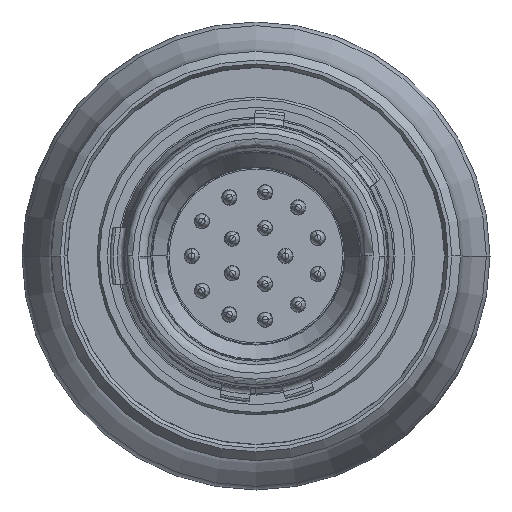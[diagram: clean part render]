
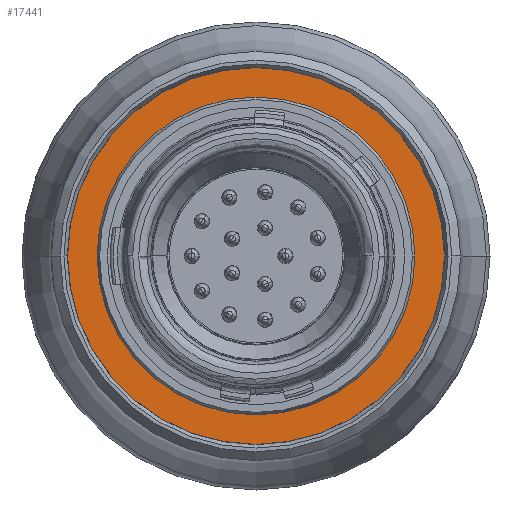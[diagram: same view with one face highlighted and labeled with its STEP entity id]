
A CAD part, left-side view. The second image highlights one B-rep face of the part: STEP entity #17441.
In plain terms, the highlighted planar face has unit normal (-1, 0, 0).
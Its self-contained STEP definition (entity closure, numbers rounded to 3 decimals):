
#1477=CARTESIAN_POINT('',(10.81,0.,0.));
#1478=DIRECTION('',(1.,0.,0.));
#1479=DIRECTION('',(0.,1.,0.));
#1480=AXIS2_PLACEMENT_3D('',#1477,#1478,#1479);
#1482=CARTESIAN_POINT('',(10.81,0.,0.));
#1483=DIRECTION('',(1.,0.,0.));
#1484=DIRECTION('',(0.,-1.,0.));
#1485=AXIS2_PLACEMENT_3D('',#1482,#1483,#1484);
#1487=CARTESIAN_POINT('',(10.81,0.,0.));
#1488=DIRECTION('',(-1.,0.,0.));
#1489=DIRECTION('',(0.,1.,0.));
#1490=AXIS2_PLACEMENT_3D('',#1487,#1488,#1489);
#1492=CARTESIAN_POINT('',(10.81,0.,0.));
#1493=DIRECTION('',(-1.,0.,0.));
#1494=DIRECTION('',(0.,-1.,0.));
#1495=AXIS2_PLACEMENT_3D('',#1492,#1493,#1494);
#12736=CARTESIAN_POINT('',(10.81,5.4,0.));
#12737=VERTEX_POINT('',#12736);
#12738=CARTESIAN_POINT('',(10.81,-5.4,0.));
#12739=VERTEX_POINT('',#12738);
#12742=CARTESIAN_POINT('',(10.81,6.4,0.));
#12743=CARTESIAN_POINT('',(10.81,-6.4,0.));
#12744=VERTEX_POINT('',#12742);
#12745=VERTEX_POINT('',#12743);
#17426=CARTESIAN_POINT('',(10.81,0.,0.));
#17427=DIRECTION('',(-1.,0.,0.));
#17428=DIRECTION('',(0.,1.,0.));
#17429=AXIS2_PLACEMENT_3D('',#17426,#17427,#17428);
#17430=PLANE('',#17429);
#17432=ORIENTED_EDGE('',*,*,#17431,.T.);
#17434=ORIENTED_EDGE('',*,*,#17433,.T.);
#17435=EDGE_LOOP('',(#17432,#17434));
#17436=FACE_OUTER_BOUND('',#17435,.F.);
#17437=ORIENTED_EDGE('',*,*,#17392,.T.);
#17438=ORIENTED_EDGE('',*,*,#17368,.T.);
#17439=EDGE_LOOP('',(#17437,#17438));
#17440=FACE_BOUND('',#17439,.F.);
#1481=CIRCLE('',#1480,6.4);
#1486=CIRCLE('',#1485,6.4);
#1491=CIRCLE('',#1490,5.4);
#1496=CIRCLE('',#1495,5.4);
#17368=EDGE_CURVE('',#12739,#12737,#1496,.T.);
#17392=EDGE_CURVE('',#12737,#12739,#1491,.T.);
#17431=EDGE_CURVE('',#12744,#12745,#1481,.T.);
#17433=EDGE_CURVE('',#12745,#12744,#1486,.T.);
#17441=ADVANCED_FACE('',(#17436,#17440),#17430,.T.);
